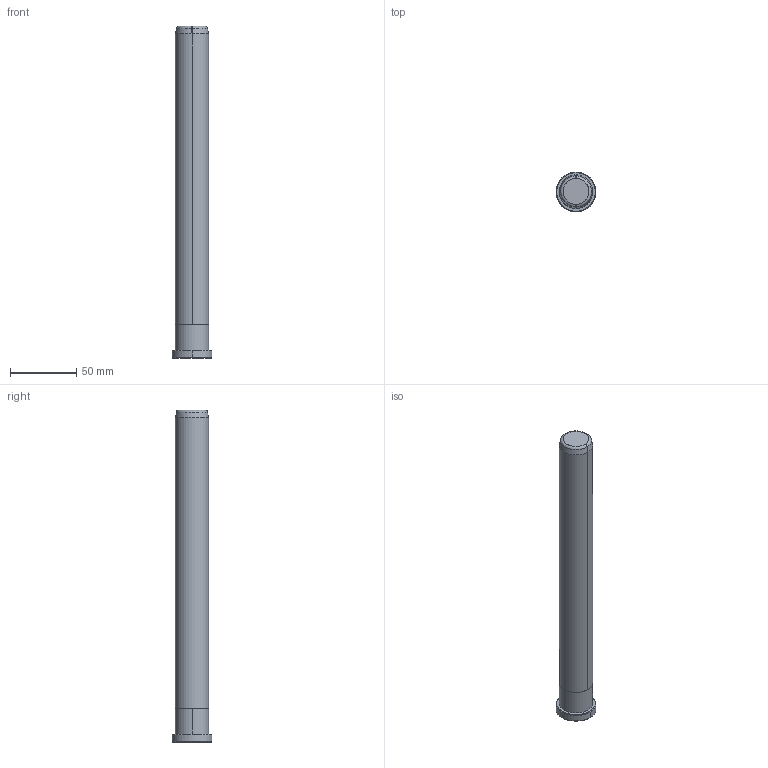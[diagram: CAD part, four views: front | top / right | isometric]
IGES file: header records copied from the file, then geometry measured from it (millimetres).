
Start section: START RECORD GO HERE.
Global section: file name: B80825250.igs; native system: DASSAULT SYSTEMES CATIA V5 R20 - www.3ds.com; preprocessor: CATIA Version 5 Release 20 ; author: Utente; organization: NB04-ASUS; date: 20200419.164856; units: millimetre
Bounding box: 30 x 30 x 250 mm (x, y, z)
Surface area: 20953.8 mm2 (no closed solid volume)
Topology: 0 solids, 0 shells, 20 faces, 80 edges, 80 vertices
Faces by surface type: revolution 16, plane 4
